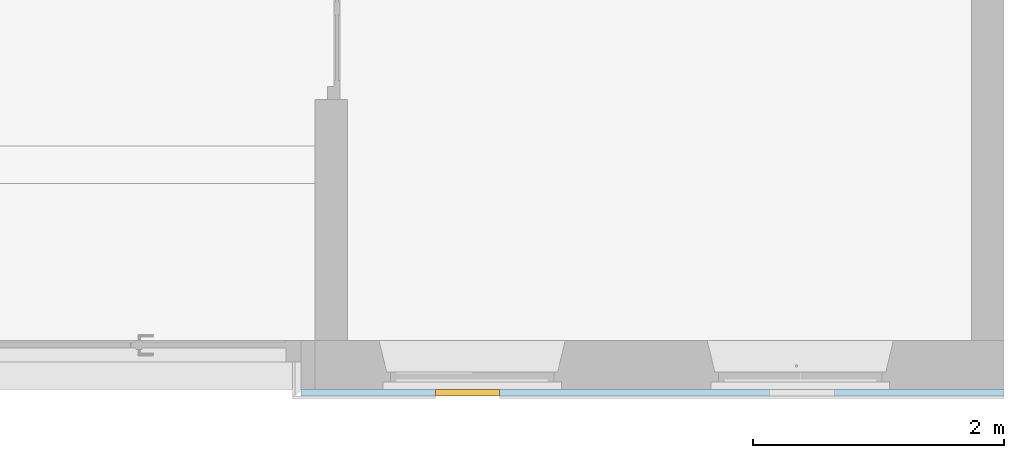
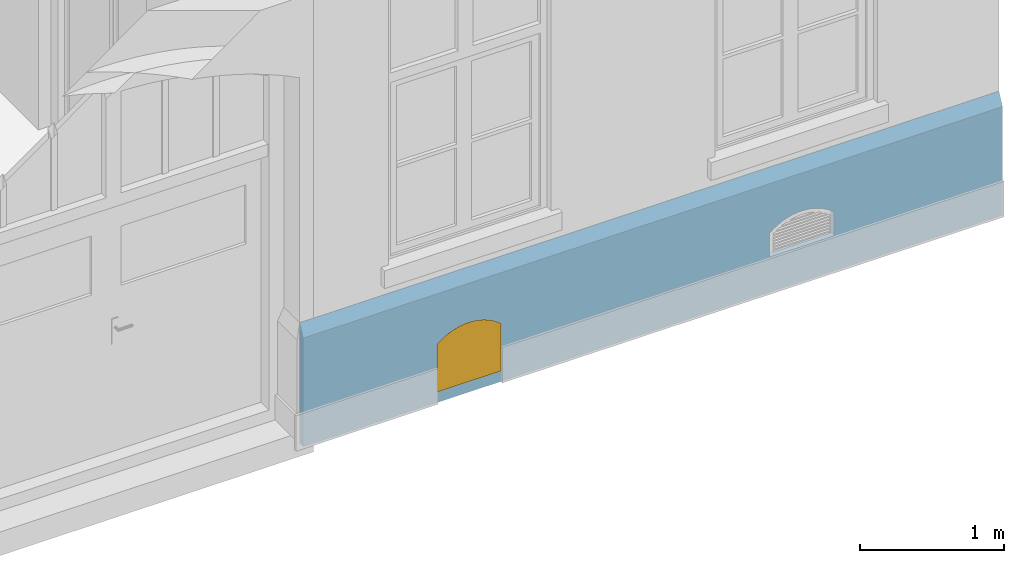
"""IFC4 building model written with IfcOpenShell, lengths in metres."""

from ifc_helpers import new_model, entity, si_unit, converted_unit, derived_unit, frame, frame_2d, origin, origin_with_axes, place, context, subcontext, project, spatial, polyline, rectangle, outline, extrude, clip, halfspace, faceted_brep, source, transform, mapped, material, layer, layer_set, layer_usage, type_object, element, fill, save


model = new_model("IFC4")

# Units and contexts
model_context = context("Model", 3, precision=1e-05, world=origin())
body_context = subcontext(model_context, "Body", "Model", "MODEL_VIEW")
ifc_project = project(units=[si_unit("LENGTHUNIT", "METRE"), si_unit("AREAUNIT", "SQUARE_METRE"), si_unit("VOLUMEUNIT", "CUBIC_METRE"), si_unit("MASSUNIT", "GRAM", prefix="KILO"), converted_unit("PLANEANGLEUNIT", "DEGREE", entity("IfcPlaneAngleMeasure", 0.0174532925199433), si_unit("PLANEANGLEUNIT", "RADIAN"), dimensions=[0, 0, 0, 0, 0, 0, 0]), derived_unit("THERMALTRANSMITTANCEUNIT", [(si_unit("POWERUNIT", "WATT"), 1), (si_unit("THERMODYNAMICTEMPERATUREUNIT", "KELVIN"), -1), (si_unit("LENGTHUNIT", "METRE"), -2)]), derived_unit("VOLUMETRICFLOWRATEUNIT", [(si_unit("LENGTHUNIT", "METRE"), 3), (converted_unit("TIMEUNIT", "hour", entity("IfcTimeMeasure", 3600.0), si_unit("TIMEUNIT", "SECOND"), dimensions=[0, 0, 1, 0, 0, 0, 0]), -1), (si_unit("LENGTHUNIT", "METRE"), -1)])], contexts=[model_context])

# Building, storeys
building_placement = place(None, origin())
building = spatial("IfcBuilding", under=ifc_project, at=building_placement, Name="Bestandsgebäude A - Sporthalle / Wohnhaus (TB 100-499)   ANPASSEN !!!", CompositionType="ELEMENT")
storey_1_placement = place(building_placement, origin())
storey_1 = spatial("IfcBuildingStorey", under=building, at=storey_1_placement, Name="Geb. A Erdgeschoss (TB 200-249)", CompositionType="ELEMENT", Elevation=0.0)
storey_2_placement = place(storey_1_placement, origin())
storey_2 = spatial("IfcBuildingStorey", under=storey_1, at=storey_2_placement, Name="Architektur (TB 200-209)", CompositionType="PARTIAL")

# Wall, openings, window
ifc_material = material(Name="concrete")
ifc_layer = layer(ifc_material, 0.05)
ifc_layer_set = layer_set([ifc_layer])
ifc_layer_usage = layer_usage(ifc_layer_set, "AXIS2", "POSITIVE", 0.0)
wall_placement = place(storey_2_placement, frame((0.0, 0.0, -0.3), z_axis=(0.0, 0.0, 1.0), x_axis=(-1.0, 1.22464679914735e-16, 0.0)))
wall = element("IfcWall", 1, at=wall_placement, inside=storey_2, material=ifc_layer_usage, Name="reinforced - bearing", PredefinedType="USERDEFINED", context=body_context, shape_type="Clipping", body=[
    clip(extrude(rectangle(XDim=5.58999999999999, YDim=0.05, at=frame_2d((2.795, 0.025), x_axis=(1.0, 0.0))), origin_with_axes(), (0.0, 0.0, 1.0), 1.02), halfspace(frame((2.795, 0.025, 0.97), z_axis=(1.2679392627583e-16, -0.894427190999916, -0.447213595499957), x_axis=(1.0, 4.394515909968e-19, 2.84725532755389e-16)), True)),
])
opening_1_placement = place(wall_placement, frame((4.01064554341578, 0.0, 0.09), z_axis=(0.0, 1.0, 0.0), x_axis=(0.0, 0.0, 1.0)))
opening_1 = element("IfcOpeningElement", 2, at=opening_1_placement, cuts=wall, Name="Window opening", PredefinedType="OPENING", context=body_context, shape_type="SweptSolid", body=[
    extrude(outline(polyline([(0.4, 0.5124393), (0.412364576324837, 0.498324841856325), (0.424013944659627, 0.483614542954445), (0.434919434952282, 0.468344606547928), (0.445054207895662, 0.452552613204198), (0.454393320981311, 0.436277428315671), (0.462913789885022, 0.419559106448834), (0.470594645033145, 0.402438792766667), (0.477416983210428, 0.384958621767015), (0.483364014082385, 0.367161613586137), (0.488421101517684, 0.349091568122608), (0.492575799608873, 0.330792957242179), (0.495817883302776, 0.312310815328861), (0.498139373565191, 0.29369062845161), (0.499534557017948, 0.27497822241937), (0.5, 0.25621965), (0.499534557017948, 0.23746107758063), (0.498139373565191, 0.21874867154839), (0.495817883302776, 0.200128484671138), (0.492575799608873, 0.181646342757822), (0.488421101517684, 0.163347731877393), (0.483364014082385, 0.145277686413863), (0.477416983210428, 0.127480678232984), (0.470594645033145, 0.110000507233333), (0.462913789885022, 0.0928801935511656), (0.454393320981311, 0.0761618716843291), (0.445054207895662, 0.0598866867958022), (0.434919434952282, 0.0440946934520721), (0.424013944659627, 0.0288247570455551), (0.412364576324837, 0.0141144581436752), (0.4, 0.0), (0.0, 0.0), (0.0, 0.5124393), (0.4, 0.5124393)])), origin_with_axes(), (0.0, 0.0, 1.0), 0.05),
])
opening_2_placement = place(wall_placement, frame((1.34725545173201, 0.0, 0.3), z_axis=(0.0, 1.0, 0.0), x_axis=(0.0, 0.0, 1.0)))
element("IfcOpeningElement", 3, at=opening_2_placement, cuts=wall, Name="Window opening", PredefinedType="OPENING", context=body_context, shape_type="SweptSolid", body=[
    extrude(outline(polyline([(0.2, 0.516638), (0.212372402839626, 0.502361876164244), (0.224027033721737, 0.487494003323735), (0.234935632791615, 0.472070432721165), (0.245071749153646, 0.456128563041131), (0.254410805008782, 0.439707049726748), (0.262930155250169, 0.422845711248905), (0.270609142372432, 0.405585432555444), (0.277429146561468, 0.387968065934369), (0.283373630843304, 0.370036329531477), (0.288428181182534, 0.351833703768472), (0.29258054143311, 0.333404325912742), (0.295820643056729, 0.314792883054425), (0.298140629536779, 0.296044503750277), (0.299534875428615, 0.277204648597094), (0.3, 0.258319), (0.299534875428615, 0.239433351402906), (0.298140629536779, 0.220593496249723), (0.295820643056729, 0.201845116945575), (0.29258054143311, 0.183233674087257), (0.288428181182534, 0.164804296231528), (0.283373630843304, 0.146601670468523), (0.277429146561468, 0.128669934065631), (0.270609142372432, 0.111052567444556), (0.262930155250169, 0.0937922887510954), (0.254410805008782, 0.0769309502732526), (0.245071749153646, 0.0605094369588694), (0.234935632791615, 0.0445675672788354), (0.224027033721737, 0.0291439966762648), (0.212372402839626, 0.0142761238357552), (0.2, 0.0), (0.0, 0.0), (0.0, 0.516638), (0.2, 0.516638)])), origin_with_axes(), (0.0, 0.0, 1.0), 0.05),
])
window_type = type_object("IfcWindowType", Name="Window", ParameterTakesPrecedence=False, PartitioningType="DOUBLE_PANEL_VERTICAL", PredefinedType="WINDOW")
shared_shape = source(origin_with_axes(), body_context, "Body", "Brep", [
    faceted_brep([(0.0141144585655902, 0.0500000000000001, 0.412364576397), (0.0, 0.0500000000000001, 0.4), (0.0, 0.05, 0.0), (0.5124393, 0.05, 0.0), (0.5124393, 0.0500000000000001, 0.4), (0.49832484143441, 0.0500000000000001, 0.412364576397), (0.483614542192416, 0.0500000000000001, 0.424013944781), (0.468344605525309, 0.0500000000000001, 0.434919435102), (0.452552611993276, 0.0500000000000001, 0.445054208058), (0.436277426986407, 0.0500000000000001, 0.454393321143), (0.419559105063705, 0.0500000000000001, 0.462913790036), (0.402438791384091, 0.0500000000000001, 0.470594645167), (0.384958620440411, 0.0500000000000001, 0.477416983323), (0.367161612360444, 0.0500000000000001, 0.483364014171), (0.349091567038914, 0.0500000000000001, 0.488421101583), (0.330792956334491, 0.0500000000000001, 0.492575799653), (0.312310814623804, 0.0500000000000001, 0.495817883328), (0.29369062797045, 0.0500000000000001, 0.498139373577), (0.274978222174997, 0.0500000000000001, 0.499534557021), (0.25621965, 0.0500000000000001, 0.5), (0.237461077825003, 0.0500000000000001, 0.499534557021), (0.21874867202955, 0.0500000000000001, 0.498139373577), (0.200128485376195, 0.0500000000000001, 0.495817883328), (0.181646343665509, 0.0500000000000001, 0.492575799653), (0.163347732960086, 0.0500000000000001, 0.488421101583), (0.145277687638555, 0.0500000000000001, 0.483364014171), (0.127480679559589, 0.0500000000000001, 0.477416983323), (0.110000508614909, 0.0500000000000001, 0.470594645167), (0.0928801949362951, 0.0500000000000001, 0.462913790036), (0.0761618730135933, 0.0500000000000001, 0.454393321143), (0.0598866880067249, 0.0500000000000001, 0.445054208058), (0.0440946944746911, 0.0500000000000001, 0.434919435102), (0.0288247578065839, 0.0500000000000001, 0.424013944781), (0.0299999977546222, 0.0500000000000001, 0.38639741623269), (0.0333227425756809, 0.0500000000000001, 0.389308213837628), (0.0468659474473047, 0.0500000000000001, 0.400033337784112), (0.0609243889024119, 0.0500000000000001, 0.41007360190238), (0.0754634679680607, 0.0500000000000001, 0.419404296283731), (0.0904474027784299, 0.0500000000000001, 0.428002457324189), (0.105839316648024, 0.0500000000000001, 0.435846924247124), (0.121601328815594, 0.0500000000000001, 0.442918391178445), (0.137694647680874, 0.0500000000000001, 0.449199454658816), (0.154079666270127, 0.0500000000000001, 0.454674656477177), (0.170716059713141, 0.0500000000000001, 0.459330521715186), (0.187562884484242, 0.0500000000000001, 0.463155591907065), (0.204578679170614, 0.0500000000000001, 0.466140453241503), (0.221721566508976, 0.0500000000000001, 0.468277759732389), (0.23894935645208, 0.0500000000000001, 0.469562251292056), (0.25621965, 0.0500000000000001, 0.469990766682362), (0.27348994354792, 0.0500000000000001, 0.469562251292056), (0.290717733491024, 0.0500000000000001, 0.468277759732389), (0.307860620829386, 0.0500000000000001, 0.466140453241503), (0.324876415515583, 0.0500000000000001, 0.463155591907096), (0.341723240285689, 0.0500000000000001, 0.459330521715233), (0.358359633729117, 0.0500000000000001, 0.454674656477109), (0.374744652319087, 0.0500000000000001, 0.449199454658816), (0.390837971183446, 0.0500000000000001, 0.442918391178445), (0.406599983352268, 0.0500000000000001, 0.435846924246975), (0.42199189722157, 0.0500000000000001, 0.428002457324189), (0.43697583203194, 0.0500000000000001, 0.419404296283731), (0.451514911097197, 0.0500000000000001, 0.410073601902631), (0.465573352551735, 0.0500000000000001, 0.400033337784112), (0.479116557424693, 0.0500000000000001, 0.389308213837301), (0.482439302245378, 0.0500000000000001, 0.38639741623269), (0.482439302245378, 0.05, 0.03), (0.0299999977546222, 0.05, 0.03), (0.0, 0.0, 0.4), (0.0141144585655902, 0.0, 0.412364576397), (0.0288247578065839, 0.0, 0.424013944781), (0.0440946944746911, 0.0, 0.434919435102), (0.0598866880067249, 0.0, 0.445054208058), (0.0761618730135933, 0.0, 0.454393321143), (0.0928801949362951, 0.0, 0.462913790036), (0.110000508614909, 0.0, 0.470594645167), (0.127480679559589, 0.0, 0.477416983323), (0.145277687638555, 0.0, 0.483364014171), (0.163347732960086, 0.0, 0.488421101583), (0.181646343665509, 0.0, 0.492575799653), (0.200128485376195, 0.0, 0.495817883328), (0.21874867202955, 0.0, 0.498139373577), (0.237461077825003, 0.0, 0.499534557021), (0.25621965, 0.0, 0.5), (0.274978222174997, 0.0, 0.499534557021), (0.29369062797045, 0.0, 0.498139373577), (0.312310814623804, 0.0, 0.495817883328), (0.330792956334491, 0.0, 0.492575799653), (0.349091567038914, 0.0, 0.488421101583), (0.367161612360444, 0.0, 0.483364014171), (0.384958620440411, 0.0, 0.477416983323), (0.402438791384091, 0.0, 0.470594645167), (0.419559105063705, 0.0, 0.462913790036), (0.436277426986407, 0.0, 0.454393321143), (0.452552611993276, 0.0, 0.445054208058), (0.468344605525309, 0.0, 0.434919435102), (0.483614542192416, 0.0, 0.424013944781), (0.49832484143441, 0.0, 0.412364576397), (0.5124393, 0.0, 0.4), (0.5124393, 0.0, 0.0), (0.0, 0.0, 0.0), (0.0333227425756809, 0.0, 0.389308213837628), (0.0299999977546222, 0.0, 0.38639741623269), (0.0299999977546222, 0.0, 0.03), (0.482439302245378, 0.0, 0.03), (0.482439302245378, 0.0, 0.38639741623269), (0.479116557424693, 0.0, 0.389308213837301), (0.465573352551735, 0.0, 0.400033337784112), (0.451514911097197, 0.0, 0.410073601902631), (0.43697583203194, 0.0, 0.419404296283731), (0.42199189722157, 0.0, 0.428002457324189), (0.406599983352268, 0.0, 0.435846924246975), (0.390837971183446, 0.0, 0.442918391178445), (0.374744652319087, 0.0, 0.449199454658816), (0.358359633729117, 0.0, 0.454674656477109), (0.341723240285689, 0.0, 0.459330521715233), (0.324876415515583, 0.0, 0.463155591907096), (0.307860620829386, 0.0, 0.466140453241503), (0.290717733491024, 0.0, 0.468277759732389), (0.27348994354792, 0.0, 0.469562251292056), (0.25621965, 0.0, 0.469990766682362), (0.23894935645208, 0.0, 0.469562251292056), (0.221721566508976, 0.0, 0.468277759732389), (0.204578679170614, 0.0, 0.466140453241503), (0.187562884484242, 0.0, 0.463155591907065), (0.170716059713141, 0.0, 0.459330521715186), (0.154079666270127, 0.0, 0.454674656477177), (0.137694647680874, 0.0, 0.449199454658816), (0.121601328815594, 0.0, 0.442918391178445), (0.105839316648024, 0.0, 0.435846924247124), (0.0904474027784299, 0.0, 0.428002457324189), (0.0754634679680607, 0.0, 0.419404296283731), (0.0609243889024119, 0.0, 0.41007360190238), (0.0468659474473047, 0.0, 0.400033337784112)], [[[0, 1, 2, 3, 4, 5, 6, 7, 8, 9, 10, 11, 12, 13, 14, 15, 16, 17, 18, 19, 20, 21, 22, 23, 24, 25, 26, 27, 28, 29, 30, 31, 32], [33, 34, 35, 36, 37, 38, 39, 40, 41, 42, 43, 44, 45, 46, 47, 48, 49, 50, 51, 52, 53, 54, 55, 56, 57, 58, 59, 60, 61, 62, 63, 64, 65]], [[66, 67, 68, 69, 70, 71, 72, 73, 74, 75, 76, 77, 78, 79, 80, 81, 82, 83, 84, 85, 86, 87, 88, 89, 90, 91, 92, 93, 94, 95, 96, 97, 98], [99, 100, 101, 102, 103, 104, 105, 106, 107, 108, 109, 110, 111, 112, 113, 114, 115, 116, 117, 118, 119, 120, 121, 122, 123, 124, 125, 126, 127, 128, 129, 130, 131]], [[1, 0, 67, 66]], [[2, 1, 66, 98]], [[3, 2, 98, 97]], [[4, 3, 97, 96]], [[5, 4, 96, 95]], [[6, 5, 95, 94]], [[7, 6, 94, 93]], [[8, 7, 93, 92]], [[9, 8, 92, 91]], [[10, 9, 91, 90]], [[11, 10, 90, 89]], [[12, 11, 89, 88]], [[13, 12, 88, 87]], [[14, 13, 87, 86]], [[15, 14, 86, 85]], [[16, 15, 85, 84]], [[17, 16, 84, 83]], [[18, 17, 83, 82]], [[19, 18, 82, 81]], [[20, 19, 81, 80]], [[21, 20, 80, 79]], [[22, 21, 79, 78]], [[23, 22, 78, 77]], [[24, 23, 77, 76]], [[25, 24, 76, 75]], [[26, 25, 75, 74]], [[27, 26, 74, 73]], [[28, 27, 73, 72]], [[29, 28, 72, 71]], [[30, 29, 71, 70]], [[31, 30, 70, 69]], [[32, 31, 69, 68]], [[0, 32, 68, 67]], [[33, 100, 99, 34]], [[65, 101, 100, 33]], [[64, 102, 101, 65]], [[63, 103, 102, 64]], [[62, 104, 103, 63]], [[61, 105, 104, 62]], [[60, 106, 105, 61]], [[59, 107, 106, 60]], [[58, 108, 107, 59]], [[57, 109, 108, 58]], [[56, 110, 109, 57]], [[55, 111, 110, 56]], [[54, 112, 111, 55]], [[53, 113, 112, 54]], [[52, 114, 113, 53]], [[51, 115, 114, 52]], [[50, 116, 115, 51]], [[49, 117, 116, 50]], [[48, 118, 117, 49]], [[47, 119, 118, 48]], [[46, 120, 119, 47]], [[45, 121, 120, 46]], [[44, 122, 121, 45]], [[43, 123, 122, 44]], [[42, 124, 123, 43]], [[41, 125, 124, 42]], [[40, 126, 125, 41]], [[39, 127, 126, 40]], [[38, 128, 127, 39]], [[37, 129, 128, 38]], [[36, 130, 129, 37]], [[35, 131, 130, 36]], [[34, 99, 131, 35]]], orient=[[False, False], [False, False], [False], [False], [False], [False], [False], [False], [False], [False], [False], [False], [False], [False], [False], [False], [False], [False], [False], [False], [False], [False], [False], [False], [False], [False], [False], [False], [False], [False], [False], [False], [False], [False], [False], [False], [False], [False], [False], [False], [False], [False], [False], [False], [False], [False], [False], [False], [False], [False], [False], [False], [False], [False], [False], [False], [False], [False], [False], [False], [False], [False], [False], [False], [False], [False], [False], [False]]),
    faceted_brep([(0.0468659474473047, 0.0500000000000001, 0.400033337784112), (0.0333227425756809, 0.0500000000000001, 0.389308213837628), (0.0299999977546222, 0.0500000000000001, 0.38639741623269), (0.0299999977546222, 0.05, 0.03), (0.255719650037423, 0.05, 0.03), (0.255719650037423, 0.0500000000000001, 0.46997836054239), (0.23894935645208, 0.0500000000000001, 0.469562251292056), (0.221721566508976, 0.0500000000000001, 0.468277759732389), (0.204578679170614, 0.0500000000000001, 0.466140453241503), (0.187562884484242, 0.0500000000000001, 0.463155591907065), (0.170716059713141, 0.0500000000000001, 0.459330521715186), (0.154079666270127, 0.0500000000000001, 0.454674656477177), (0.137694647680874, 0.0500000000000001, 0.449199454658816), (0.121601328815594, 0.0500000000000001, 0.442918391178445), (0.105839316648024, 0.0500000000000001, 0.435846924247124), (0.0904474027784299, 0.0500000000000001, 0.428002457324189), (0.0754634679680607, 0.0500000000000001, 0.419404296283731), (0.0609243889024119, 0.0500000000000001, 0.41007360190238), (0.0333227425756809, 0.0100000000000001, 0.389308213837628), (0.0468659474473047, 0.0100000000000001, 0.400033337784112), (0.0609243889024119, 0.0100000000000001, 0.41007360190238), (0.0754634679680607, 0.0100000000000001, 0.419404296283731), (0.0904474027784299, 0.0100000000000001, 0.428002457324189), (0.105839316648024, 0.0100000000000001, 0.435846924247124), (0.121601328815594, 0.0100000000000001, 0.442918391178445), (0.137694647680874, 0.0100000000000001, 0.449199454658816), (0.154079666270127, 0.0100000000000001, 0.454674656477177), (0.170716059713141, 0.0100000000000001, 0.459330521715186), (0.187562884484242, 0.0100000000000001, 0.463155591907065), (0.204578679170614, 0.0100000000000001, 0.466140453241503), (0.221721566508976, 0.0100000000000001, 0.468277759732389), (0.23894935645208, 0.0100000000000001, 0.469562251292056), (0.255719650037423, 0.0100000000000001, 0.46997836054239), (0.255719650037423, 0.01, 0.03), (0.0299999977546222, 0.01, 0.03), (0.0299999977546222, 0.0100000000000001, 0.38639741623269)], [[[0, 1, 2, 3, 4, 5, 6, 7, 8, 9, 10, 11, 12, 13, 14, 15, 16, 17]], [[18, 19, 20, 21, 22, 23, 24, 25, 26, 27, 28, 29, 30, 31, 32, 33, 34, 35]], [[1, 0, 19, 18]], [[2, 1, 18, 35]], [[3, 2, 35, 34]], [[4, 3, 34, 33]], [[5, 4, 33, 32]], [[6, 5, 32, 31]], [[7, 6, 31, 30]], [[8, 7, 30, 29]], [[9, 8, 29, 28]], [[10, 9, 28, 27]], [[11, 10, 27, 26]], [[12, 11, 26, 25]], [[13, 12, 25, 24]], [[14, 13, 24, 23]], [[15, 14, 23, 22]], [[16, 15, 22, 21]], [[17, 16, 21, 20]], [[0, 17, 20, 19]]], orient=[[False], [False], [False], [False], [False], [False], [False], [False], [False], [False], [False], [False], [False], [False], [False], [False], [False], [False], [False], [False]]),
    faceted_brep([(0.27348994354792, 0.0500000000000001, 0.469562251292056), (0.256719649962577, 0.0500000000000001, 0.46997836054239), (0.256719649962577, 0.05, 0.03), (0.482439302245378, 0.05, 0.03), (0.482439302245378, 0.0500000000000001, 0.38639741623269), (0.479116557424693, 0.0500000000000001, 0.389308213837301), (0.465573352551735, 0.0500000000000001, 0.400033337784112), (0.451514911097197, 0.0500000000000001, 0.410073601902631), (0.43697583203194, 0.0500000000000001, 0.419404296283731), (0.42199189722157, 0.0500000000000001, 0.428002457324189), (0.406599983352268, 0.0500000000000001, 0.435846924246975), (0.390837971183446, 0.0500000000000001, 0.442918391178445), (0.374744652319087, 0.0500000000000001, 0.449199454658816), (0.358359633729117, 0.0500000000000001, 0.454674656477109), (0.341723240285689, 0.0500000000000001, 0.459330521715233), (0.324876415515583, 0.0500000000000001, 0.463155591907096), (0.307860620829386, 0.0500000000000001, 0.466140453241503), (0.290717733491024, 0.0500000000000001, 0.468277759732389), (0.256719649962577, 0.0100000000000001, 0.46997836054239), (0.27348994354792, 0.0100000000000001, 0.469562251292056), (0.290717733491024, 0.0100000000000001, 0.468277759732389), (0.307860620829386, 0.0100000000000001, 0.466140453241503), (0.324876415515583, 0.0100000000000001, 0.463155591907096), (0.341723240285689, 0.0100000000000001, 0.459330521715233), (0.358359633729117, 0.0100000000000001, 0.454674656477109), (0.374744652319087, 0.0100000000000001, 0.449199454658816), (0.390837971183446, 0.0100000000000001, 0.442918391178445), (0.406599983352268, 0.0100000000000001, 0.435846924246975), (0.42199189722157, 0.0100000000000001, 0.428002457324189), (0.43697583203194, 0.0100000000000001, 0.419404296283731), (0.451514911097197, 0.0100000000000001, 0.410073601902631), (0.465573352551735, 0.0100000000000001, 0.400033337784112), (0.479116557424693, 0.0100000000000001, 0.389308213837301), (0.482439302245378, 0.0100000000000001, 0.38639741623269), (0.482439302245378, 0.01, 0.03), (0.256719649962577, 0.01, 0.03)], [[[0, 1, 2, 3, 4, 5, 6, 7, 8, 9, 10, 11, 12, 13, 14, 15, 16, 17]], [[18, 19, 20, 21, 22, 23, 24, 25, 26, 27, 28, 29, 30, 31, 32, 33, 34, 35]], [[1, 0, 19, 18]], [[2, 1, 18, 35]], [[3, 2, 35, 34]], [[4, 3, 34, 33]], [[5, 4, 33, 32]], [[6, 5, 32, 31]], [[7, 6, 31, 30]], [[8, 7, 30, 29]], [[9, 8, 29, 28]], [[10, 9, 28, 27]], [[11, 10, 27, 26]], [[12, 11, 26, 25]], [[13, 12, 25, 24]], [[14, 13, 24, 23]], [[15, 14, 23, 22]], [[16, 15, 22, 21]], [[17, 16, 21, 20]], [[0, 17, 20, 19]]], orient=[[False], [False], [False], [False], [False], [False], [False], [False], [False], [False], [False], [False], [False], [False], [False], [False], [False], [False], [False], [False]]),
])
window_placement = place(opening_1_placement, frame((0.0, 0.0, 0.0), z_axis=(1.0, 0.0, 0.0), x_axis=(0.0, 1.0, 0.0)))
window = element("IfcWindow", 4, at=window_placement, inside=storey_2, type_object=window_type, Name="Window", OverallHeight=0.5, OverallWidth=0.51244, context=body_context, shape_type="MappedRepresentation", body=[
    mapped(shared_shape, transform((0.0, 0.0, 0.0), x_axis=(1.0, 0.0, 0.0), y_axis=(0.0, 1.0, 0.0), z_axis=(0.0, 0.0, 1.0), scale=1.0)),
])
fill(opening_1, window)

save(model, "model.ifc")
